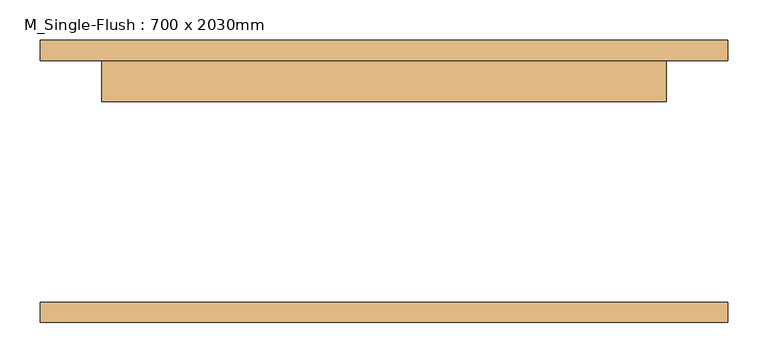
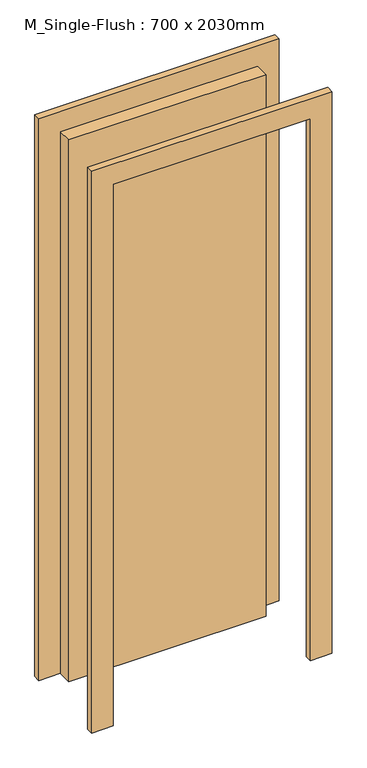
"""IFC4 building model written with IfcOpenShell, lengths in millimetres: door geometry, M_Single-Flush : 700 x 2030mm."""

import ifcopenshell
import ifcopenshell.guid

model = None  # the IFC model being written
_history = None  # IfcOwnerHistory: only IFC2X3 demands one
_inside = {}  # id of a spatial element -> (the spatial element, [elements in it])
_under = {}  # id of a project, library or spatial element -> (it, [spatial elements below it])
_declared = {}  # id of a project -> (the project, [libraries it declares])
_typed = {}  # id of a type object -> (the type object, [elements of that type])
_made_of = {}  # id of a material, layer set ... -> (it, [elements and type objects made of it])


def new_model(schema):
    """Start an empty IFC model of exactly this schema.

    Asked for "IFC4X3", IfcOpenShell would pick the latest addendum, in which some entities
    have other attributes; the version numbers below select the first issue.
    IFC2X3 requires an IfcOwnerHistory on every rooted entity: one is made here for all.
    """
    global model, _history
    if schema == "IFC4X3":
        model = ifcopenshell.file(schema_version=(4, 3, 0, 0))
    else:
        model = ifcopenshell.file(schema=schema)
    _inside.clear()
    _under.clear()
    _declared.clear()
    _typed.clear()
    _made_of.clear()
    _history = None
    if model.schema == "IFC2X3":
        org = make("IfcOrganization", Name="unknown")
        user = make(
            "IfcPersonAndOrganization",
            ThePerson=make("IfcPerson", FamilyName="unknown"),
            TheOrganization=org,
        )
        app = make(
            "IfcApplication",
            ApplicationDeveloper=org,
            Version="unknown",
            ApplicationFullName="unknown",
            ApplicationIdentifier="unknown",
        )
        _history = make(
            "IfcOwnerHistory",
            OwningUser=user,
            OwningApplication=app,
            ChangeAction="ADDED",
            CreationDate=0,
        )
    return model


def make(cls, **values):
    """One entity of the class cls with the attributes given. An attribute that is None is left unset."""
    return model.create_entity(
        cls, **{name: value for name, value in values.items() if value is not None}
    )


def rooted(cls, **values):
    """An entity with a GlobalId (a new one), such as an element, a storey or a relation."""
    return make(cls, GlobalId=ifcopenshell.guid.new(), OwnerHistory=_history, **values)


def si_unit(unit_type, name, prefix=None):
    """IfcSIUnit, for example si_unit("LENGTHUNIT", "METRE", prefix="MILLI")."""
    return make("IfcSIUnit", UnitType=unit_type, Prefix=prefix, Name=name)


def assignment(units):
    """IfcUnitAssignment: the units of a project."""
    return None if units is None else make("IfcUnitAssignment", Units=units)


def point(xyz):
    """IfcCartesianPoint."""
    return None if xyz is None else make("IfcCartesianPoint", Coordinates=xyz)


def direction(xyz):
    """IfcDirection."""
    return None if xyz is None else make("IfcDirection", DirectionRatios=xyz)


def frame(location, z_axis=None, x_axis=None):
    """IfcAxis2Placement3D, a coordinate frame: its origin and axes. An axis left out is left unset."""
    return make(
        "IfcAxis2Placement3D",
        Location=point(location),
        Axis=direction(z_axis),
        RefDirection=direction(x_axis),
    )


def origin():
    """The frame at (0, 0, 0) with its axes left unset."""
    return frame((0.0, 0.0, 0.0))


def origin_with_axes():
    """The frame at (0, 0, 0) with the z axis (0, 0, 1) and the x axis (1, 0, 0) written out."""
    return frame((0.0, 0.0, 0.0), z_axis=(0.0, 0.0, 1.0), x_axis=(1.0, 0.0, 0.0))


def place(relative_to, where):
    """IfcLocalPlacement: puts the frame where relative to a parent placement (None: the world)."""
    return make(
        "IfcLocalPlacement", PlacementRelTo=relative_to, RelativePlacement=where
    )


def context(
    kind, dimensions, precision=None, world=None, true_north=None, identifier=None
):
    """IfcGeometricRepresentationContext, for example the 3D "Model" context."""
    return make(
        "IfcGeometricRepresentationContext",
        ContextIdentifier=identifier,
        ContextType=kind,
        CoordinateSpaceDimension=dimensions,
        Precision=precision,
        WorldCoordinateSystem=world,
        TrueNorth=true_north,
    )


def project(units=None, contexts=None):
    """IfcProject with its units and contexts."""
    return rooted(
        "IfcProject",
        Name="project",
        RepresentationContexts=contexts,
        UnitsInContext=assignment(units),
    )


def spatial(cls, under=None, at=None, **own):
    """A site, building, storey or space (cls), placed at a placement, below another one or the project."""
    s = rooted(cls, ObjectPlacement=at, **own)
    if under is not None:
        _under.setdefault(under.id(), (under, []))[1].append(s)
    return s


def polyline(points):
    """IfcPolyline through the points."""
    return make("IfcPolyline", Points=[point(p) for p in points])


def outline(outer, holes=None, kind="AREA"):
    """IfcArbitraryClosedProfileDef: a profile drawn as a closed curve; with holes, ...WithVoids."""
    if holes is None:
        return make("IfcArbitraryClosedProfileDef", ProfileType=kind, OuterCurve=outer)
    return make(
        "IfcArbitraryProfileDefWithVoids",
        ProfileType=kind,
        OuterCurve=outer,
        InnerCurves=holes,
    )


def extrude(swept, where, along, depth):
    """IfcExtrudedAreaSolid: the profile swept, set in the frame where, extruded along a direction by depth."""
    return make(
        "IfcExtrudedAreaSolid",
        SweptArea=swept,
        Position=where,
        ExtrudedDirection=direction(along),
        Depth=depth,
    )


def shape(context_of_items, identifier, shape_type, items):
    """IfcShapeRepresentation: the items that make up one representation, for example the "Body"."""
    return make(
        "IfcShapeRepresentation",
        ContextOfItems=context_of_items,
        RepresentationIdentifier=identifier,
        RepresentationType=shape_type,
        Items=items,
    )


def source(mapping_origin, context_of_items, identifier, shape_type, items):
    """IfcRepresentationMap: a shape defined once, which mapped items show again and again."""
    return make(
        "IfcRepresentationMap",
        MappingOrigin=mapping_origin,
        MappedRepresentation=shape(context_of_items, identifier, shape_type, items),
    )


def transform(
    local_origin,
    x_axis=None,
    y_axis=None,
    z_axis=None,
    scale=None,
    scale2=None,
    scale3=None,
    uniform=True,
):
    """IfcCartesianTransformationOperator3D, or its non-uniform kind. x_axis, y_axis, z_axis: its Axis1, 2, 3."""
    if uniform:
        return make(
            "IfcCartesianTransformationOperator3D",
            Axis1=direction(x_axis),
            Axis2=direction(y_axis),
            LocalOrigin=point(local_origin),
            Scale=scale,
            Axis3=direction(z_axis),
        )
    return make(
        "IfcCartesianTransformationOperator3DnonUniform",
        Axis1=direction(x_axis),
        Axis2=direction(y_axis),
        LocalOrigin=point(local_origin),
        Scale=scale,
        Axis3=direction(z_axis),
        Scale2=scale2,
        Scale3=scale3,
    )


def mapped(mapping_source, mapping_target):
    """IfcMappedItem: shows the shape of a source again, moved by a transform."""
    return make(
        "IfcMappedItem", MappingSource=mapping_source, MappingTarget=mapping_target
    )


def made_of(thing, what):
    """Note that an element or type object is made of a material, layer set ...; save() writes the relation."""
    if what is not None:
        _made_of.setdefault(what.id(), (what, []))[1].append(thing)
    return thing


def element(
    cls,
    number,
    at=None,
    inside=None,
    cuts=None,
    type_object=None,
    material=None,
    context=None,
    identifier="Body",
    shape_type=None,
    held_by="IfcProductDefinitionShape",
    body=None,
    shapes=None,
    **own,
):
    """One element of the class cls, such as IfcWall. Its Tag is "e" and its number.

    at: its placement. inside: the storey or other place that contains it. cuts: it is an
    opening in that element (IfcRelVoidsElement). A single representation is given by context,
    identifier, shape_type and body (its items); several are given by shapes. held_by: the class
    of the entity that holds the representations. save() writes the other relations.
    """
    e = rooted(cls, Tag="e%d" % number, ObjectPlacement=at, **own)
    if body is not None:
        shapes = [shape(context, identifier, shape_type, body)]
    if shapes is not None:
        e.Representation = make(held_by, Representations=shapes)
    if inside is not None:
        _inside.setdefault(inside.id(), (inside, []))[1].append(e)
    if cuts is not None:
        rooted(
            "IfcRelVoidsElement", RelatingBuildingElement=cuts, RelatedOpeningElement=e
        )
    if type_object is not None:
        _typed.setdefault(type_object.id(), (type_object, []))[1].append(e)
    return made_of(e, material)


def aggregate(whole, parts):
    """IfcRelAggregates: a whole, such as a stair, and the parts it consists of."""
    return rooted("IfcRelAggregates", RelatingObject=whole, RelatedObjects=parts)


def save(model, path):
    """Write the relations noted so far, then the file.

    IfcRelAggregates (storeys below a building ...), IfcRelContainedInSpatialStructure (elements
    in a storey), IfcRelDefinesByType, IfcRelAssociatesMaterial and IfcRelDeclares: one each for
    every whole, place, type object, material and project.
    """
    for whole, parts in _under.values():
        aggregate(whole, parts)
    for where, things in _inside.values():
        rooted(
            "IfcRelContainedInSpatialStructure",
            RelatedElements=things,
            RelatingStructure=where,
        )
    for kind, things in _typed.values():
        rooted("IfcRelDefinesByType", RelatedObjects=things, RelatingType=kind)
    for what, things in _made_of.values():
        rooted("IfcRelAssociatesMaterial", RelatedObjects=things, RelatingMaterial=what)
    for by, libraries in _declared.values():
        rooted("IfcRelDeclares", RelatingContext=by, RelatedDefinitions=libraries)
    model.write(path)


def m_single_flush_700_x_2030mm_36273b71(model_context):
    return source(origin(), model_context, "Body", "SweptSolid", [
        extrude(outline(polyline([(2106.0, -426.0), (0.0, -426.0), (0.0, -350.0), (2030.0, -350.0), (2030.0, 350.0), (0.0, 350.0), (0.0, 426.0), (2106.0, 426.0), (2106.0, -426.0)])), frame((0.0, 150.0, 0.0), z_axis=(0.0, 1.0, 0.0), x_axis=(0.0, 0.0, 1.0)), (0.0, 0.0, 1.0), 25.0),
        extrude(outline(polyline([(2106.0, 426.0), (2106.0, -426.0), (0.0, -426.0), (0.0, -350.0), (2030.0, -350.0), (2030.0, 350.0), (0.0, 350.0), (0.0, 426.0), (2106.0, 426.0)])), frame((0.0, -175.0, 0.0), z_axis=(0.0, 1.0, 0.0), x_axis=(0.0, 0.0, 1.0)), (0.0, 0.0, 1.0), 25.0),
        extrude(outline(polyline([(350.0, 99.0), (-350.0, 99.0), (-350.0, 150.0), (350.0, 150.0), (350.0, 99.0)])), origin_with_axes(), (0.0, 0.0, 1.0), 2030.0),
    ])


if __name__ == "__main__":
    model = new_model("IFC4")
    model_context = context("Model", 3, world=origin())
    ifc_project = project(units=[si_unit("LENGTHUNIT", "METRE", prefix="MILLI")], contexts=[model_context])
    site = spatial("IfcSite", under=ifc_project)
    building = spatial("IfcBuilding", under=site)
    placement = place(None, origin())
    m_single_flush_700_x_2030mm_shape = m_single_flush_700_x_2030mm_36273b71(model_context)
    element("IfcDoor", 1, ObjectType="M_Single-Flush : 700 x 2030mm", at=placement, inside=building, context=model_context, shape_type="MappedRepresentation", body=[
        mapped(m_single_flush_700_x_2030mm_shape, transform((0.0, 0.0, 0.0), x_axis=(1.0, 0.0, 0.0), y_axis=(0.0, 1.0, 0.0), z_axis=(0.0, 0.0, 1.0))),
    ])
    save(model, "model.ifc")
